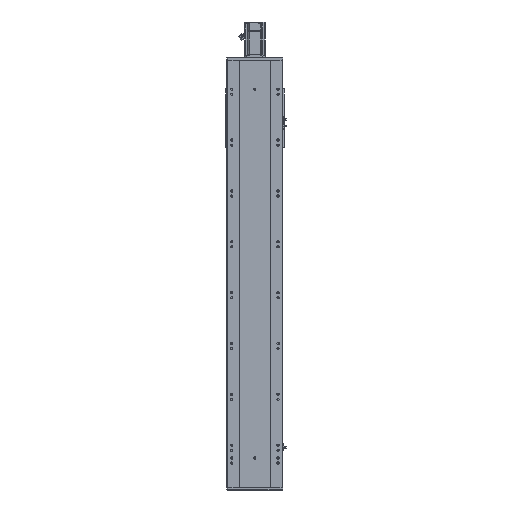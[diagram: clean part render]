
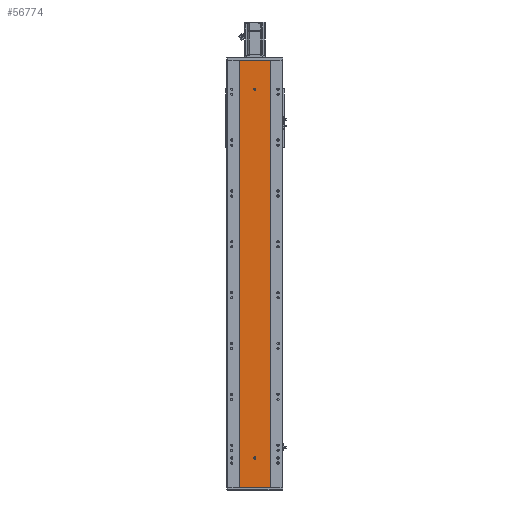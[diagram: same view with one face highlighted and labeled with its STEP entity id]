
A CAD part, front view. The second image highlights one B-rep face of the part: STEP entity #56774.
In plain terms, the highlighted planar face has unit normal (0, -1, 0).
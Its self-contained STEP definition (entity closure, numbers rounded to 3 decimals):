
#60 = VECTOR ( 'NONE', #40678, 1000. ) ;
#1232 = LINE ( 'NONE', #65073, #54274 ) ;
#1312 = CARTESIAN_POINT ( 'NONE',  ( -60., 0., 1682. ) ) ;
#2210 = ORIENTED_EDGE ( 'NONE', *, *, #51910, .F. ) ;
#2243 = FACE_BOUND ( 'NONE', #63618, .T. ) ;
#3424 = ORIENTED_EDGE ( 'NONE', *, *, #14117, .F. ) ;
#3621 = ORIENTED_EDGE ( 'NONE', *, *, #25620, .T. ) ;
#4358 = CIRCLE ( 'NONE', #28478, 4. ) ;
#6245 = CARTESIAN_POINT ( 'NONE',  ( -4., 0., 116.5 ) ) ;
#7599 = ORIENTED_EDGE ( 'NONE', *, *, #51200, .F. ) ;
#8444 = CARTESIAN_POINT ( 'NONE',  ( 0., 0., 1564. ) ) ;
#10409 = DIRECTION ( 'NONE',  ( 0., -1., 0. ) ) ;
#11513 = AXIS2_PLACEMENT_3D ( 'NONE', #40470, #10409, #51446 ) ;
#11523 = VERTEX_POINT ( 'NONE', #41983 ) ;
#11596 = VERTEX_POINT ( 'NONE', #48585 ) ;
#12030 = DIRECTION ( 'NONE',  ( 1., 0., 0. ) ) ;
#12861 = CARTESIAN_POINT ( 'NONE',  ( -60., 0., 1682. ) ) ;
#12882 = VERTEX_POINT ( 'NONE', #52722 ) ;
#13159 = CARTESIAN_POINT ( 'NONE',  ( 60., 0., 1682. ) ) ;
#13339 = EDGE_CURVE ( 'NONE', #40996, #12882, #53098, .T. ) ;
#13793 = EDGE_CURVE ( 'NONE', #28775, #16609, #59517, .T. ) ;
#14117 = EDGE_CURVE ( 'NONE', #11596, #11523, #33855, .T. ) ;
#14856 = ORIENTED_EDGE ( 'NONE', *, *, #35271, .F. ) ;
#16609 = VERTEX_POINT ( 'NONE', #56466 ) ;
#17468 = ORIENTED_EDGE ( 'NONE', *, *, #32561, .F. ) ;
#19318 = VECTOR ( 'NONE', #43569, 1000. ) ;
#22018 = VERTEX_POINT ( 'NONE', #33003 ) ;
#25620 = EDGE_CURVE ( 'NONE', #12882, #16609, #48432, .T. ) ;
#25624 = DIRECTION ( 'NONE',  ( 0., 0., -1. ) ) ;
#28405 = VECTOR ( 'NONE', #31658, 1000. ) ;
#28478 = AXIS2_PLACEMENT_3D ( 'NONE', #42970, #60589, #25624 ) ;
#28693 = DIRECTION ( 'NONE',  ( 0., 0., 1. ) ) ;
#28775 = VERTEX_POINT ( 'NONE', #60355 ) ;
#29113 = CARTESIAN_POINT ( 'NONE',  ( 0., 0., 112.5 ) ) ;
#29178 = CARTESIAN_POINT ( 'NONE',  ( 4., 0., 116.5 ) ) ;
#29470 = DIRECTION ( 'NONE',  ( 0., -1., 0. ) ) ;
#31553 = DIRECTION ( 'NONE',  ( 0., 0., -1. ) ) ;
#31658 = DIRECTION ( 'NONE',  ( 1., 0., 0. ) ) ;
#32561 = EDGE_CURVE ( 'NONE', #11523, #22018, #56516, .T. ) ;
#33003 = CARTESIAN_POINT ( 'NONE',  ( -4., 0., 119.5 ) ) ;
#33102 = EDGE_CURVE ( 'NONE', #74862, #75426, #4358, .T. ) ;
#33855 = LINE ( 'NONE', #29178, #68572 ) ;
#34178 = AXIS2_PLACEMENT_3D ( 'NONE', #12861, #53916, #36814 ) ;
#34429 = ORIENTED_EDGE ( 'NONE', *, *, #33102, .F. ) ;
#34668 = ORIENTED_EDGE ( 'NONE', *, *, #57410, .F. ) ;
#35271 = EDGE_CURVE ( 'NONE', #75426, #11596, #65233, .T. ) ;
#35349 = DIRECTION ( 'NONE',  ( 0., 0., -1. ) ) ;
#36320 = ORIENTED_EDGE ( 'NONE', *, *, #13793, .F. ) ;
#36617 = LINE ( 'NONE', #6245, #60 ) ;
#36814 = DIRECTION ( 'NONE',  ( 0., 0., 1. ) ) ;
#37545 = ORIENTED_EDGE ( 'NONE', *, *, #13339, .T. ) ;
#38795 = FACE_BOUND ( 'NONE', #41272, .T. ) ;
#39495 = ORIENTED_EDGE ( 'NONE', *, *, #64328, .F. ) ;
#40470 = CARTESIAN_POINT ( 'NONE',  ( 0., 0., 116.5 ) ) ;
#40678 = DIRECTION ( 'NONE',  ( 0., 0., -1. ) ) ;
#40996 = VERTEX_POINT ( 'NONE', #1312 ) ;
#41272 = EDGE_LOOP ( 'NONE', ( #7599, #2210 ) ) ;
#41983 = CARTESIAN_POINT ( 'NONE',  ( 4., 0., 119.5 ) ) ;
#42970 = CARTESIAN_POINT ( 'NONE',  ( 0., 0., 116.5 ) ) ;
#43569 = DIRECTION ( 'NONE',  ( 0., 0., -1. ) ) ;
#43939 = VECTOR ( 'NONE', #53972, 1000. ) ;
#45994 = CARTESIAN_POINT ( 'NONE',  ( -4., 0., 116.5 ) ) ;
#48128 = AXIS2_PLACEMENT_3D ( 'NONE', #52776, #75225, #52272 ) ;
#48432 = LINE ( 'NONE', #67140, #28405 ) ;
#48585 = CARTESIAN_POINT ( 'NONE',  ( 4., 0., 116.5 ) ) ;
#48911 = EDGE_LOOP ( 'NONE', ( #3621, #36320, #34668, #37545 ) ) ;
#50469 = VERTEX_POINT ( 'NONE', #8444 ) ;
#50866 = VERTEX_POINT ( 'NONE', #54789 ) ;
#51027 = AXIS2_PLACEMENT_3D ( 'NONE', #58598, #29470, #35349 ) ;
#51200 = EDGE_CURVE ( 'NONE', #50469, #50866, #55921, .T. ) ;
#51446 = DIRECTION ( 'NONE',  ( 0., 0., -1. ) ) ;
#51910 = EDGE_CURVE ( 'NONE', #50866, #50469, #73070, .T. ) ;
#52272 = DIRECTION ( 'NONE',  ( 0., 0., -1. ) ) ;
#52722 = CARTESIAN_POINT ( 'NONE',  ( -60., 0., 0. ) ) ;
#52776 = CARTESIAN_POINT ( 'NONE',  ( 0., 0., 1568. ) ) ;
#53098 = LINE ( 'NONE', #61455, #19318 ) ;
#53916 = DIRECTION ( 'NONE',  ( 0., 1., 0. ) ) ;
#53972 = DIRECTION ( 'NONE',  ( 0., 0., -1. ) ) ;
#54176 = PLANE ( 'NONE',  #34178 ) ;
#54274 = VECTOR ( 'NONE', #12030, 1000. ) ;
#54789 = CARTESIAN_POINT ( 'NONE',  ( 0., 0., 1572. ) ) ;
#55921 = CIRCLE ( 'NONE', #51027, 4. ) ;
#56466 = CARTESIAN_POINT ( 'NONE',  ( 60., 0., 0. ) ) ;
#56516 = CIRCLE ( 'NONE', #73358, 4. ) ;
#56774 = ADVANCED_FACE ( 'NONE', ( #38795, #2243, #65332 ), #54176, .F. ) ;
#57410 = EDGE_CURVE ( 'NONE', #40996, #28775, #1232, .T. ) ;
#58598 = CARTESIAN_POINT ( 'NONE',  ( 0., 0., 1568. ) ) ;
#59517 = LINE ( 'NONE', #13159, #43939 ) ;
#60150 = DIRECTION ( 'NONE',  ( 0., -1., 0. ) ) ;
#60355 = CARTESIAN_POINT ( 'NONE',  ( 60., 0., 1682. ) ) ;
#60589 = DIRECTION ( 'NONE',  ( 0., -1., 0. ) ) ;
#61455 = CARTESIAN_POINT ( 'NONE',  ( -60., 0., 1682. ) ) ;
#63618 = EDGE_LOOP ( 'NONE', ( #3424, #14856, #34429, #39495, #17468 ) ) ;
#64328 = EDGE_CURVE ( 'NONE', #22018, #74862, #36617, .T. ) ;
#65073 = CARTESIAN_POINT ( 'NONE',  ( -60., 0., 1682. ) ) ;
#65233 = CIRCLE ( 'NONE', #11513, 4. ) ;
#65332 = FACE_OUTER_BOUND ( 'NONE', #48911, .T. ) ;
#66496 = CARTESIAN_POINT ( 'NONE',  ( 0., 0., 119.5 ) ) ;
#67140 = CARTESIAN_POINT ( 'NONE',  ( -60., 0., 0. ) ) ;
#68572 = VECTOR ( 'NONE', #28693, 1000. ) ;
#73070 = CIRCLE ( 'NONE', #48128, 4. ) ;
#73358 = AXIS2_PLACEMENT_3D ( 'NONE', #66496, #60150, #31553 ) ;
#74862 = VERTEX_POINT ( 'NONE', #45994 ) ;
#75225 = DIRECTION ( 'NONE',  ( 0., -1., 0. ) ) ;
#75426 = VERTEX_POINT ( 'NONE', #29113 ) ;
